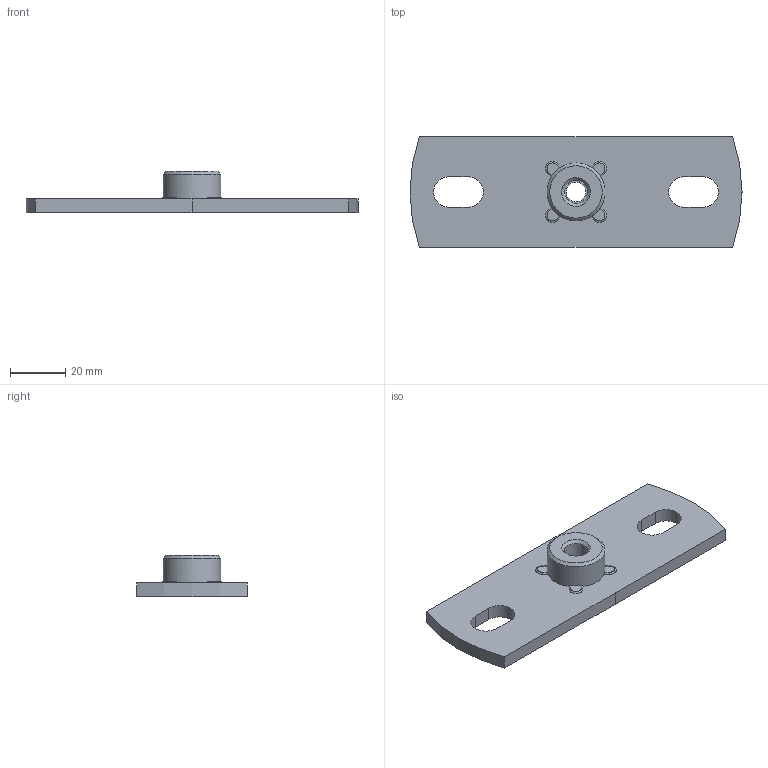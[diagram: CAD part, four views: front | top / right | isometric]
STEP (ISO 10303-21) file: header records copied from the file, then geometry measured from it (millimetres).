
FILE_DESCRIPTION(/* description */ (''),/* implementation_level */ '2;1');
FILE_NAME(/* name */ 'C:\Planerdaten\Export PLA\362.851.26.1\stp\362851.stp',/* time_stamp */ '2022-04-13T09:33:19+02:00',/* author */ ('JANAN'),/* organization */ (''),/* preprocessor_version */ 'ST-DEVELOPER v16.13',/* originating_system */ 'Autodesk Inventor 2018',/* authorisation */ '');
FILE_SCHEMA (('AUTOMOTIVE_DESIGN { 1 0 10303 214 3 1 1 }'));
Length unit declared in the file: millimetre
Products named in the file (1): tmp7768.tmp
Bounding box: 120 x 40 x 15 mm (x, y, z)
Volume: 24520.3 mm3; surface area: 11659.4 mm2
Topology: 1 solids, 1 shells, 39 faces, 104 edges, 69 vertices
Faces by surface type: cylinder 17, plane 16, torus 4, cone 2
Full cylindrical faces by diameter (mm): 7 x1, 8.376 x1, 20.955 x1
Entity records: 1336 total; most frequent: CARTESIAN_POINT 276, DIRECTION 212, ORIENTED_EDGE 194, EDGE_CURVE 97, AXIS2_PLACEMENT_3D 83, VERTEX_POINT 67, EDGE_LOOP 52, LINE 46
